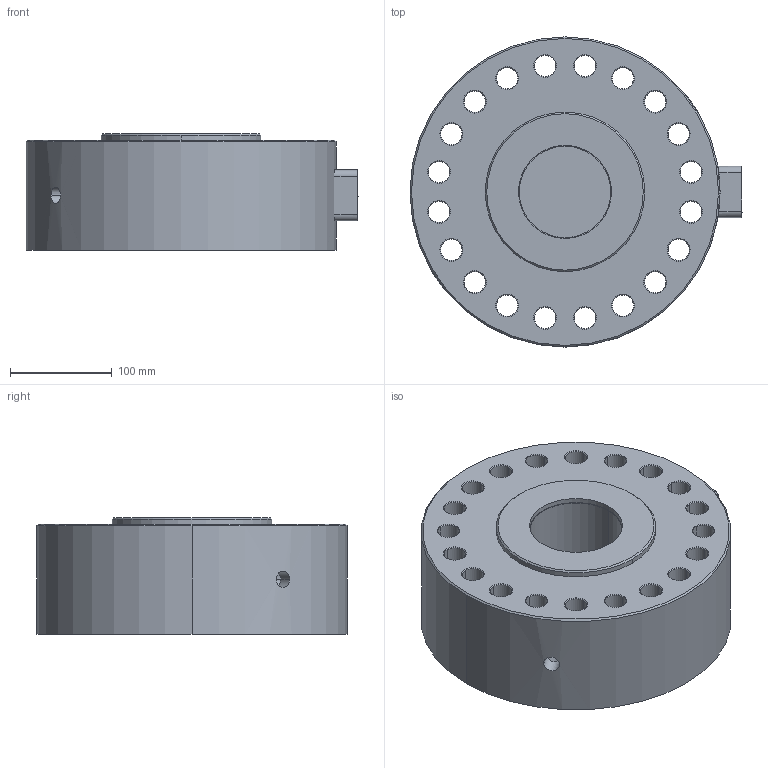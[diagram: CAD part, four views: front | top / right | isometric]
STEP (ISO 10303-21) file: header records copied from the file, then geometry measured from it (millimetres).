
FILE_DESCRIPTION (( 'STEP AP214' ), '1' );
FILE_NAME ('Interface 1252-1800KN.STEP', '2014-05-08T21:07:29', ( '' ), ( '' ), 'SwSTEP 2.0', 'SolidWorks 2013', '' );
FILE_SCHEMA (( 'AUTOMOTIVE_DESIGN' ));
Length unit declared in the file: inch
Products named in the file (1): Interface 1252-1800KN
Bounding box: 326.39 x 304.8 x 114.3 mm (x, y, z)
Volume: 6630270.4 mm3; surface area: 416445.2 mm2
Topology: 1 solids, 1 shells, 449 faces, 1126 edges, 721 vertices
Faces by surface type: plane 169, cylinder 138, bspline 86, cone 56
Entity records: 19305 total; most frequent: CARTESIAN_POINT 8925, ORIENTED_EDGE 2232, DIRECTION 1979, EDGE_CURVE 1116, VERTEX_POINT 721, AXIS2_PLACEMENT_3D 715, VECTOR 549, LINE 549
